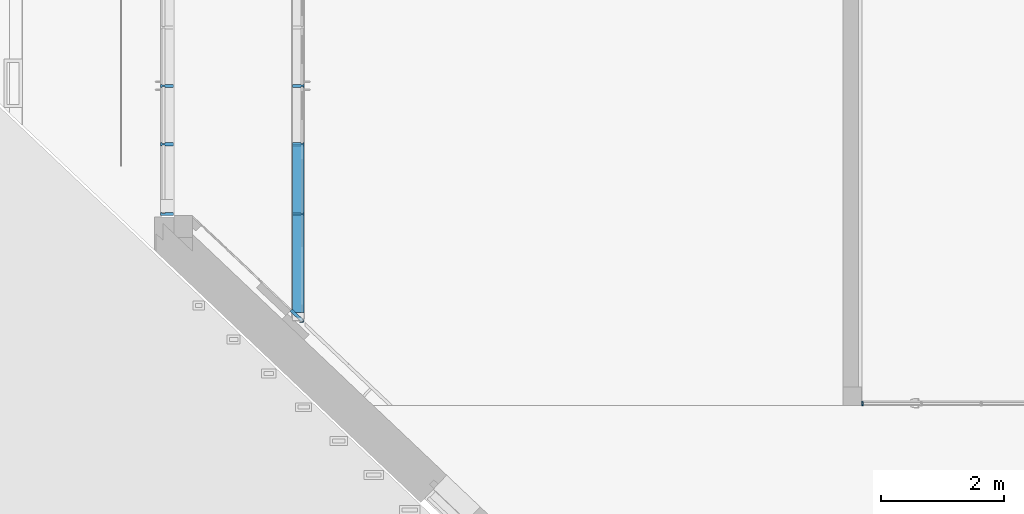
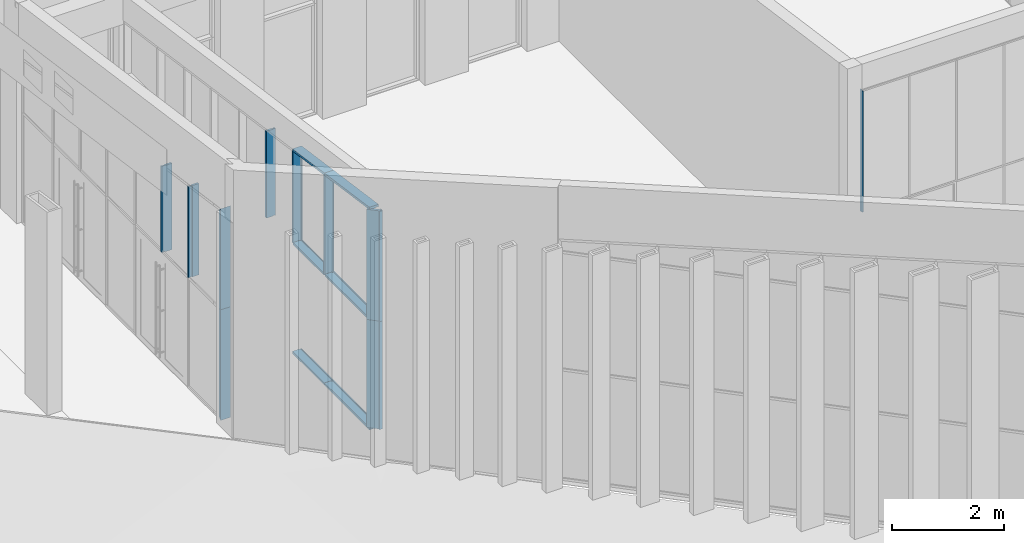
# One storey, part 65 of 246: 16 members, 3 elements without a shape of their own.
"""IFC2X3 building model written with IfcOpenShell, lengths in millimetres."""

import ifcopenshell
import ifcopenshell.guid

model = None  # the IFC model being written
_history = None  # IfcOwnerHistory: only IFC2X3 demands one
_inside = {}  # id of a spatial element -> (the spatial element, [elements in it])
_under = {}  # id of a project, library or spatial element -> (it, [spatial elements below it])
_declared = {}  # id of a project -> (the project, [libraries it declares])
_typed = {}  # id of a type object -> (the type object, [elements of that type])
_made_of = {}  # id of a material, layer set ... -> (it, [elements and type objects made of it])


def new_model(schema):
    """Start an empty IFC model of exactly this schema.

    Asked for "IFC4X3", IfcOpenShell would pick the latest addendum, in which some entities
    have other attributes; the version numbers below select the first issue.
    IFC2X3 requires an IfcOwnerHistory on every rooted entity: one is made here for all.
    """
    global model, _history
    if schema == "IFC4X3":
        model = ifcopenshell.file(schema_version=(4, 3, 0, 0))
    else:
        model = ifcopenshell.file(schema=schema)
    _inside.clear()
    _under.clear()
    _declared.clear()
    _typed.clear()
    _made_of.clear()
    _history = None
    if model.schema == "IFC2X3":
        org = make("IfcOrganization", Name="unknown")
        user = make(
            "IfcPersonAndOrganization",
            ThePerson=make("IfcPerson", FamilyName="unknown"),
            TheOrganization=org,
        )
        app = make(
            "IfcApplication",
            ApplicationDeveloper=org,
            Version="unknown",
            ApplicationFullName="unknown",
            ApplicationIdentifier="unknown",
        )
        _history = make(
            "IfcOwnerHistory",
            OwningUser=user,
            OwningApplication=app,
            ChangeAction="ADDED",
            CreationDate=0,
        )
    return model


def make(cls, **values):
    """One entity of the class cls with the attributes given. An attribute that is None is left unset."""
    return model.create_entity(
        cls, **{name: value for name, value in values.items() if value is not None}
    )


def entity(cls, *values):
    """Any entity or typed value of the class cls, its attributes in the order of the schema. None: left unset."""
    e = model.create_entity(cls)
    for i, value in enumerate(values):
        if value is not None:
            e[i] = value
    return e


def rooted(cls, **values):
    """An entity with a GlobalId (a new one), such as an element, a storey or a relation."""
    return make(cls, GlobalId=ifcopenshell.guid.new(), OwnerHistory=_history, **values)


def si_unit(unit_type, name, prefix=None):
    """IfcSIUnit, for example si_unit("LENGTHUNIT", "METRE", prefix="MILLI")."""
    return make("IfcSIUnit", UnitType=unit_type, Prefix=prefix, Name=name)


def converted_unit(unit_type, name, factor, base, dimensions=None, offset=None):
    """IfcConversionBasedUnit, such as the inch: factor (a typed value) times the base unit."""
    return make(
        "IfcConversionBasedUnit"
        if offset is None
        else "IfcConversionBasedUnitWithOffset",
        ConversionOffset=offset,
        Dimensions=None
        if dimensions is None
        else entity("IfcDimensionalExponents", *dimensions),
        UnitType=unit_type,
        Name=name,
        ConversionFactor=make(
            "IfcMeasureWithUnit", ValueComponent=factor, UnitComponent=base
        ),
    )


def derived_unit(unit_type, elements):
    """IfcDerivedUnit: a product of units, each with its exponent."""
    return make(
        "IfcDerivedUnit",
        Elements=[
            make("IfcDerivedUnitElement", Unit=unit, Exponent=power)
            for unit, power in elements
        ],
        UnitType=unit_type,
    )


def money_unit(currency):
    """IfcMonetaryUnit."""
    return make("IfcMonetaryUnit", Currency=currency)


def assignment(units):
    """IfcUnitAssignment: the units of a project."""
    return None if units is None else make("IfcUnitAssignment", Units=units)


def point(xyz):
    """IfcCartesianPoint."""
    return None if xyz is None else make("IfcCartesianPoint", Coordinates=xyz)


def direction(xyz):
    """IfcDirection."""
    return None if xyz is None else make("IfcDirection", DirectionRatios=xyz)


def frame(location, z_axis=None, x_axis=None):
    """IfcAxis2Placement3D, a coordinate frame: its origin and axes. An axis left out is left unset."""
    return make(
        "IfcAxis2Placement3D",
        Location=point(location),
        Axis=direction(z_axis),
        RefDirection=direction(x_axis),
    )


def origin_with_axes():
    """The frame at (0, 0, 0) with the z axis (0, 0, 1) and the x axis (1, 0, 0) written out."""
    return frame((0.0, 0.0, 0.0), z_axis=(0.0, 0.0, 1.0), x_axis=(1.0, 0.0, 0.0))


def place(relative_to, where):
    """IfcLocalPlacement: puts the frame where relative to a parent placement (None: the world)."""
    return make(
        "IfcLocalPlacement", PlacementRelTo=relative_to, RelativePlacement=where
    )


def context(
    kind, dimensions, precision=None, world=None, true_north=None, identifier=None
):
    """IfcGeometricRepresentationContext, for example the 3D "Model" context."""
    return make(
        "IfcGeometricRepresentationContext",
        ContextIdentifier=identifier,
        ContextType=kind,
        CoordinateSpaceDimension=dimensions,
        Precision=precision,
        WorldCoordinateSystem=world,
        TrueNorth=true_north,
    )


def subcontext(parent, identifier, kind, view, scale=None):
    """IfcGeometricRepresentationSubContext, for example "Body" below "Model"."""
    return make(
        "IfcGeometricRepresentationSubContext",
        ContextIdentifier=identifier,
        ContextType=kind,
        ParentContext=parent,
        TargetScale=scale,
        TargetView=view,
    )


def project(units=None, contexts=None):
    """IfcProject with its units and contexts."""
    return rooted(
        "IfcProject",
        Name="project",
        RepresentationContexts=contexts,
        UnitsInContext=assignment(units),
    )


def spatial(cls, under=None, at=None, **own):
    """A site, building, storey or space (cls), placed at a placement, below another one or the project."""
    s = rooted(cls, ObjectPlacement=at, **own)
    if under is not None:
        _under.setdefault(under.id(), (under, []))[1].append(s)
    return s


def faces_of(points, faces, orient=None, outer=None):
    """IfcFace entities. A face is a list of loops; a loop is a list of indices into points, from 0.

    orient and outer hold one flag for each loop. By default every Orientation is true, the
    first loop of a face is its IfcFaceOuterBound and the others are IfcFaceBound.
    """
    made = []
    for i, loops in enumerate(faces):
        bounds = []
        for j, loop in enumerate(loops):
            is_outer = j == 0 if outer is None else outer[i][j]
            bounds.append(
                make(
                    "IfcFaceOuterBound" if is_outer else "IfcFaceBound",
                    Bound=make("IfcPolyLoop", Polygon=[points[k] for k in loop]),
                    Orientation=True if orient is None else orient[i][j],
                )
            )
        made.append(make("IfcFace", Bounds=bounds))
    return made


def faceted_brep(points, faces, orient=None, outer=None, voids=None):
    """IfcFacetedBrep: a solid bounded by flat faces; with voids (closed shells), ...WithVoids."""
    shared = [point(p) for p in points]
    hull = make("IfcClosedShell", CfsFaces=faces_of(shared, faces, orient, outer))
    if voids is None:
        return make("IfcFacetedBrep", Outer=hull)
    return make(
        "IfcFacetedBrepWithVoids",
        Outer=hull,
        Voids=[
            make(cls, CfsFaces=faces_of(shared, fs, o, b)) for cls, fs, o, b in voids
        ],
    )


def shape(context_of_items, identifier, shape_type, items):
    """IfcShapeRepresentation: the items that make up one representation, for example the "Body"."""
    return make(
        "IfcShapeRepresentation",
        ContextOfItems=context_of_items,
        RepresentationIdentifier=identifier,
        RepresentationType=shape_type,
        Items=items,
    )


def material(Name=None, Category=None):
    """IfcMaterial."""
    return make("IfcMaterial", Name=Name, Category=Category)


def material_list(materials):
    """IfcMaterialList."""
    return make("IfcMaterialList", Materials=materials)


def made_of(thing, what):
    """Note that an element or type object is made of a material, layer set ...; save() writes the relation."""
    if what is not None:
        _made_of.setdefault(what.id(), (what, []))[1].append(thing)
    return thing


def type_object(cls, material=None, **own):
    """A type object (cls), such as IfcWallType, which elements share."""
    return made_of(rooted(cls, **own), material)


def element(
    cls,
    number,
    at=None,
    inside=None,
    cuts=None,
    type_object=None,
    material=None,
    context=None,
    identifier="Body",
    shape_type=None,
    held_by="IfcProductDefinitionShape",
    body=None,
    shapes=None,
    **own,
):
    """One element of the class cls, such as IfcWall. Its Tag is "e" and its number.

    at: its placement. inside: the storey or other place that contains it. cuts: it is an
    opening in that element (IfcRelVoidsElement). A single representation is given by context,
    identifier, shape_type and body (its items); several are given by shapes. held_by: the class
    of the entity that holds the representations. save() writes the other relations.
    """
    e = rooted(cls, Tag="e%d" % number, ObjectPlacement=at, **own)
    if body is not None:
        shapes = [shape(context, identifier, shape_type, body)]
    if shapes is not None:
        e.Representation = make(held_by, Representations=shapes)
    if inside is not None:
        _inside.setdefault(inside.id(), (inside, []))[1].append(e)
    if cuts is not None:
        rooted(
            "IfcRelVoidsElement", RelatingBuildingElement=cuts, RelatedOpeningElement=e
        )
    if type_object is not None:
        _typed.setdefault(type_object.id(), (type_object, []))[1].append(e)
    return made_of(e, material)


def aggregate(whole, parts):
    """IfcRelAggregates: a whole, such as a stair, and the parts it consists of."""
    return rooted("IfcRelAggregates", RelatingObject=whole, RelatedObjects=parts)


def save(model, path):
    """Write the relations noted so far, then the file.

    IfcRelAggregates (storeys below a building ...), IfcRelContainedInSpatialStructure (elements
    in a storey), IfcRelDefinesByType, IfcRelAssociatesMaterial and IfcRelDeclares: one each for
    every whole, place, type object, material and project.
    """
    for whole, parts in _under.values():
        aggregate(whole, parts)
    for where, things in _inside.values():
        rooted(
            "IfcRelContainedInSpatialStructure",
            RelatedElements=things,
            RelatingStructure=where,
        )
    for kind, things in _typed.values():
        rooted("IfcRelDefinesByType", RelatedObjects=things, RelatingType=kind)
    for what, things in _made_of.values():
        rooted("IfcRelAssociatesMaterial", RelatedObjects=things, RelatingMaterial=what)
    for by, libraries in _declared.values():
        rooted("IfcRelDeclares", RelatingContext=by, RelatedDefinitions=libraries)
    model.write(path)


model = new_model("IFC2X3")

# Units and contexts
model_context = context("Model", 3, precision=0.01, world=origin_with_axes(), true_north=direction((0.0, 1.0)))
body_context = subcontext(model_context, "Body", "Model", "MODEL_VIEW")
ifc_project = project(units=[si_unit("LENGTHUNIT", "METRE", prefix="MILLI"), si_unit("AREAUNIT", "SQUARE_METRE"), si_unit("VOLUMEUNIT", "CUBIC_METRE"), converted_unit("PLANEANGLEUNIT", "DEGREE", entity("IfcPlaneAngleMeasure", 0.0174532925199), si_unit("PLANEANGLEUNIT", "RADIAN"), dimensions=[0, 0, 0, 0, 0, 0, 0]), si_unit("SOLIDANGLEUNIT", "STERADIAN"), money_unit("EUR"), converted_unit("TIMEUNIT", "Year", entity("IfcTimeMeasure", 31556926.0), si_unit("TIMEUNIT", "SECOND"), dimensions=[0, 0, 1, 0, 0, 0, 0]), si_unit("MASSUNIT", "GRAM", prefix="KILO"), si_unit("THERMODYNAMICTEMPERATUREUNIT", "DEGREE_CELSIUS"), si_unit("LUMINOUSINTENSITYUNIT", "LUMEN"), si_unit("ENERGYUNIT", "JOULE", prefix="MEGA"), derived_unit("THERMALCONDUCTANCEUNIT", [(si_unit("POWERUNIT", "WATT"), 1), (si_unit("LENGTHUNIT", "METRE"), -1), (si_unit("THERMODYNAMICTEMPERATUREUNIT", "KELVIN"), -1)]), derived_unit("SPECIFICHEATCAPACITYUNIT", [(si_unit("ENERGYUNIT", "JOULE"), 1), (si_unit("MASSUNIT", "GRAM", prefix="KILO"), -1), (si_unit("THERMODYNAMICTEMPERATUREUNIT", "KELVIN"), -1)]), derived_unit("MASSDENSITYUNIT", [(si_unit("MASSUNIT", "GRAM", prefix="KILO"), 1), (si_unit("VOLUMEUNIT", "CUBIC_METRE"), -1)])], contexts=[model_context])

# Site, building, storey
site_placement = place(None, origin_with_axes())
site = spatial("IfcSite", under=ifc_project, at=site_placement, Name="L.Koidula tn 11b", CompositionType="ELEMENT")
building_placement = place(site_placement, origin_with_axes())
building = spatial("IfcBuilding", under=site, at=building_placement, Name="Rakvere Riigigümnaasium", CompositionType="ELEMENT")
storey_placement = place(building_placement, origin_with_axes())
storey = spatial("IfcBuildingStorey", under=building, at=storey_placement, Name="1.korrus 0,00", CompositionType="ELEMENT", Elevation=0.0)

# Curtain wall, members
curtain_wall_type = type_object("IfcCurtainWallType", Name="Curtain Wall Type", PredefinedType="NOTDEFINED")
curtain_wall_1_placement = place(storey_placement, frame((14260.0344055, 70945.4519938, -0.000165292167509), z_axis=(0.0, 0.0, 1.0), x_axis=(1.0, 0.0, 0.0)))
curtain_wall_1 = element("IfcCurtainWall", 1, at=curtain_wall_1_placement, inside=storey, type_object=curtain_wall_type, Name="KLF-01A")
ifc_material_1 = material(Name="Alumiiniumprofiil (RAL 7021)")
member_type_1 = type_object("IfcMemberType", Name="Boundary Frame 50 x 208", PredefinedType="MULLION")
member_1_placement = place(curtain_wall_1_placement, frame((0.0, -6520.10761405, 2400.00026018), z_axis=(0.0, 1.07617375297e-07, 1.0), x_axis=(0.0, 1.0, -1.07617375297e-07)))
member_1 = element("IfcMember", 2, at=member_1_placement, type_object=member_type_1, material=ifc_material_1, Name="KLF-51 Profiilid", ObjectType="MULLION", context=body_context, shape_type="Brep", body=[
    faceted_brep([(37.0, -27.0, 2152.02160314), (37.0, 27.0, 2152.02160314), (50.0, 27.0, 2137.04030025), (50.0, 48.0, 2137.04030025), (0.0, 48.0, 2194.66069598), (0.0, -160.0, 2194.66069598), (50.0, -160.0, 2137.04030025), (50.0, -27.0, 2137.04030025), (37.0, -27.0, -2.69043409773e-06), (37.0, 27.0, -2.69043409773e-06), (50.0, 27.0, -2.69043431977e-06), (50.0, 48.0, -2.69043431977e-06), (0.0, 48.0, -2.69043431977e-06), (0.0, -160.0, -2.69043431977e-06), (50.0, -160.0, -2.69043431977e-06), (50.0, -27.0, -2.69043431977e-06)], [[[0, 1, 2, 3, 4, 5, 6, 7]], [[1, 0, 8, 9]], [[10, 2, 1, 9]], [[2, 10, 11, 3]], [[12, 4, 3, 11]], [[13, 5, 4, 12]], [[14, 6, 5, 13]], [[15, 7, 6, 14]], [[0, 7, 15, 8]], [[8, 15, 14, 13, 12, 11, 10, 9]]]),
])
member_2_placement = place(curtain_wall_1_placement, frame((0.0, -6520.10761405, 0.0), z_axis=(0.0, 0.0, 1.0), x_axis=(0.0, 1.0, 0.0)))
member_2 = element("IfcMember", 3, at=member_2_placement, type_object=member_type_1, material=ifc_material_1, Name="KLF-50 Profiilid", ObjectType="MULLION", context=body_context, shape_type="Brep", body=[
    faceted_brep([(37.0, -27.0, 2400.00026287), (37.0, 27.0, 2400.00026287), (50.0, 27.0, 2400.00026287), (50.0, 48.0, 2400.00026287), (0.0, 48.0, 2400.00026287), (0.0, -160.0, 2400.00026287), (50.0, -160.0, 2400.00026287), (50.0, -27.0, 2400.00026287), (37.0, -27.0, 37.0), (37.0, 27.0, 37.0), (50.0, 27.0, 50.0), (50.0, 48.0, 50.0), (0.0, 48.0, 0.0), (0.0, -160.0, 0.0), (50.0, -160.0, 50.0), (50.0, -27.0, 50.0)], [[[0, 1, 2, 3, 4, 5, 6, 7]], [[1, 0, 8, 9]], [[10, 2, 1, 9]], [[2, 10, 11, 3]], [[4, 3, 11, 12]], [[5, 4, 12, 13]], [[6, 5, 13, 14]], [[15, 7, 6, 14]], [[0, 7, 15, 8]], [[8, 15, 14, 13, 12, 11, 10, 9]]]),
])
member_type_2 = type_object("IfcMemberType", Name="Mullion Frame 50 x 208", PredefinedType="MULLION")
member_3_placement = place(curtain_wall_1_placement, frame((0.0, -4410.0, 2400.00026018), z_axis=(0.0, 0.0, 1.0), x_axis=(0.0, 1.0, 0.0)))
member_3 = element("IfcMember", 4, at=member_3_placement, type_object=member_type_2, material=ifc_material_1, Name="KLF-01 Profiilid", ObjectType="MULLION", context=body_context, shape_type="Brep", body=[
    faceted_brep([(-12.0, -27.0, 1845.53311899), (-25.0, -27.0, 1847.38340915), (-25.0, -160.0, 1847.38340915), (25.0, -160.0, 1840.26690851), (25.0, -27.0, 1840.26690851), (12.0, -27.0, 1842.11719868), (12.0, 27.0, 1842.11719868), (25.0, 27.0, 1840.26690851), (25.0, 48.0, 1840.26690851), (-25.0, 48.0, 1847.38340915), (-25.0, 27.0, 1847.38340915), (-12.0, 27.0, 1845.53311899), (-12.0, -27.0, -25.0), (-25.0, -27.0, -25.0), (-25.0, -160.0, -25.0), (25.0, -160.0, -25.0), (25.0, -27.0, -25.0), (12.0, -27.0, -25.0), (12.0, 27.0, -25.0), (25.0, 27.0, -25.0), (25.0, 48.0, -25.0), (-25.0, 48.0, -25.0), (-25.0, 27.0, -25.0), (-12.0, 27.0, -25.0)], [[[0, 1, 2, 3, 4, 5, 6, 7, 8, 9, 10, 11]], [[1, 0, 12, 13]], [[1, 13, 14, 2]], [[3, 2, 14, 15]], [[4, 3, 15, 16]], [[4, 16, 17, 5]], [[5, 17, 18, 6]], [[7, 6, 18, 19]], [[19, 20, 8, 7]], [[9, 8, 20, 21]], [[22, 10, 9, 21]], [[11, 10, 22, 23]], [[0, 11, 23, 12]], [[23, 22, 21, 20, 19, 18, 17, 16, 15, 14, 13, 12]]]),
])
member_4_placement = place(curtain_wall_1_placement, frame((0.0, -5360.0, 2400.00026018), z_axis=(0.0, 0.0, 1.0), x_axis=(0.0, 1.0, 0.0)))
member_4 = element("IfcMember", 5, at=member_4_placement, type_object=member_type_2, material=ifc_material_1, Name="KLF-01 Profiilid", ObjectType="MULLION", context=body_context, shape_type="Brep", body=[
    faceted_brep([(-12.0, -27.0, 1980.74663136), (-25.0, -27.0, 1982.59692217), (-25.0, -160.0, 1982.59692217), (25.0, -160.0, 1975.48041906), (25.0, -27.0, 1975.48041906), (12.0, -27.0, 1977.33070987), (12.0, 27.0, 1977.33070987), (25.0, 27.0, 1975.48041906), (25.0, 48.0, 1975.48041906), (-25.0, 48.0, 1982.59692217), (-25.0, 27.0, 1982.59692217), (-12.0, 27.0, 1980.74663136), (-12.0, -27.0, 0.0), (-25.0, -27.0, 0.0), (-25.0, -160.0, 0.0), (25.0, -160.0, 0.0), (25.0, -27.0, 0.0), (12.0, -27.0, 0.0), (12.0, 27.0, 0.0), (25.0, 27.0, 0.0), (25.0, 48.0, 0.0), (-25.0, 48.0, 0.0), (-25.0, 27.0, 0.0), (-12.0, 27.0, 0.0)], [[[0, 1, 2, 3, 4, 5, 6, 7, 8, 9, 10, 11]], [[1, 0, 12, 13]], [[1, 13, 14, 2]], [[3, 2, 14, 15]], [[4, 3, 15, 16]], [[4, 16, 17, 5]], [[5, 17, 18, 6]], [[7, 6, 18, 19]], [[19, 20, 8, 7]], [[9, 8, 20, 21]], [[22, 10, 9, 21]], [[11, 10, 22, 23]], [[0, 11, 23, 12]], [[23, 22, 21, 20, 19, 18, 17, 16, 15, 14, 13, 12]]]),
])
aggregate(curtain_wall_1, [member_3, member_4, member_1, member_2])

# Curtain wall, member
curtain_wall_2_placement = place(storey_placement, frame((26572.4999007, 61372.4546496, 0.0), z_axis=(0.0, 0.0, 1.0), x_axis=(1.0, 0.0, 0.0)))
curtain_wall_2 = element("IfcCurtainWall", 6, at=curtain_wall_2_placement, inside=storey, type_object=curtain_wall_type, Name="SKLF-01")
ifc_material_2 = material(Name="Klaasvill")
ifc_material_3 = material(Name="Teras RAL7012")
ifc_material_list = material_list([ifc_material_2, ifc_material_3])
member_type_3 = type_object("IfcMemberType", Name="Boundary Frame 30 x 42", PredefinedType="MULLION")
member_5_placement = place(curtain_wall_2_placement, frame((-972.5, 0.0, 2400.0), z_axis=(0.0, 0.0, 1.0), x_axis=(-1.0, 0.0, 0.0)))
member_5 = element("IfcMember", 7, at=member_5_placement, type_object=member_type_3, material=ifc_material_list, Name="SKLF-74-raam", ObjectType="MULLION", context=body_context, shape_type="Brep", body=[
    faceted_brep([(-7.49999990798, 15.000000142, 0.0), (-7.49999990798, 15.000000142, 2642.50000009), (-13.8499999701, 15.000000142, 2636.15000003), (-13.8499999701, 15.000000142, 0.0), (-7.49999990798, 29.0161444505, 0.0), (-7.49999990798, 29.0161444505, 2642.50000009), (-13.8499999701, 29.0161444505, 2636.15000003), (-13.8499999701, 29.0161444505, 0.0)], [[[0, 1, 2, 3]], [[4, 5, 1, 0]], [[1, 5, 6, 2]], [[3, 2, 6, 7]], [[0, 3, 7, 4]], [[7, 6, 5, 4]]]),
    faceted_brep([(-24.987414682, 29.0161444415, 0.0), (-24.987414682, 29.0161444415, 2625.01258532), (-25.004489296, 27.0307503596, 2624.9955107), (-25.004489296, 27.0307503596, 0.0), (-28.5126239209, 29.0161444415, 0.0), (-28.5126239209, 29.0161444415, 2621.48737608), (-28.7655837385, 28.0385325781, 2621.23441626), (-28.4955493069, 27.0307503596, 2621.50445069), (-27.75780152, 26.2930025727, 2622.24219848), (-26.7500193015, 26.0229681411, 2623.2499807), (-25.742237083, 26.2930025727, 2624.25776292), (-25.742237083, 26.2930025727, 0.0), (-26.7500193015, 26.0229681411, 0.0), (-27.75780152, 26.2930025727, 0.0), (-28.4955493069, 27.0307503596, 0.0), (-28.7655837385, 28.0385325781, 0.0)], [[[0, 1, 2, 3]], [[4, 5, 1, 0]], [[1, 5, 6, 7, 8, 9, 10, 2]], [[3, 2, 10, 11]], [[0, 3, 11, 12, 13, 14, 15, 4]], [[15, 6, 5, 4]], [[14, 7, 6, 15]], [[13, 8, 7, 14]], [[12, 9, 8, 13]], [[11, 10, 9, 12]]]),
    faceted_brep([(-7.49999990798, -24.9999997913, 0.0), (-7.49999990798, -24.9999997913, 2642.50000009), (-7.49999990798, -39.0161445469, 2642.50000009), (-7.49999990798, -39.0161445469, 0.0), (-13.8499999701, -24.9999997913, 0.0), (-13.8499999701, -24.9999997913, 2636.15000003), (-13.8499999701, -39.0161445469, 2636.15000003), (-13.8499999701, -39.0161445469, 0.0)], [[[0, 1, 2, 3]], [[4, 5, 1, 0]], [[1, 5, 6, 2]], [[3, 2, 6, 7]], [[0, 3, 7, 4]], [[7, 6, 5, 4]]]),
    faceted_brep([(-25.004489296, -37.0307503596, 0.0), (-25.004489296, -37.0307503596, 2624.9955107), (-24.987414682, -39.0161444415, 2625.01258532), (-24.987414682, -39.0161444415, 0.0), (-25.742237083, -36.2930025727, 0.0), (-25.742237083, -36.2930025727, 2624.25776292), (-26.7500193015, -36.0229681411, 2623.2499807), (-27.75780152, -36.2930025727, 2622.24219848), (-28.4955493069, -37.0307503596, 2621.50445069), (-28.7655837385, -38.0385325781, 2621.23441626), (-28.5126239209, -39.0161444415, 2621.48737608), (-28.5126239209, -39.0161444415, 0.0), (-28.7655837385, -38.0385325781, 0.0), (-28.4955493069, -37.0307503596, 0.0), (-27.75780152, -36.2930025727, 0.0), (-26.7500193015, -36.0229681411, 0.0)], [[[0, 1, 2, 3]], [[4, 5, 1, 0]], [[1, 5, 6, 7, 8, 9, 10, 2]], [[3, 2, 10, 11]], [[0, 3, 11, 12, 13, 14, 15, 4]], [[15, 6, 5, 4]], [[14, 7, 6, 15]], [[13, 8, 7, 14]], [[12, 9, 8, 13]], [[11, 10, 9, 12]]]),
    faceted_brep([(0.0, -22.0000000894, 0.0), (0.0, -22.0000000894, 2650.0), (-29.5999996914, -22.0000000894, 2620.40000031), (-29.5999996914, -22.0000000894, 0.0), (0.0, 12.0000000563, 0.0), (0.0, 12.0000000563, 2650.0), (-29.5999996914, 12.0000000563, 2620.40000031), (-1.9999999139, 10.0000001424, 2648.00000009), (-1.9999999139, -20.0000001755, 2648.00000009), (-18.7999996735, -20.0000001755, 2631.20000033), (-18.7999996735, 10.0000001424, 2631.20000033), (-29.5999996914, 12.0000000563, 0.0), (-1.9999999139, 10.0000001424, 0.0), (-18.7999996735, 10.0000001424, 0.0), (-18.7999996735, -20.0000001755, 0.0), (-1.9999999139, -20.0000001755, 0.0)], [[[0, 1, 2, 3]], [[4, 5, 1, 0]], [[1, 5, 6, 2], [7, 8, 9, 10]], [[3, 2, 6, 11]], [[0, 3, 11, 4], [12, 13, 14, 15]], [[11, 6, 5, 4]], [[15, 8, 7, 12]], [[14, 9, 8, 15]], [[13, 10, 9, 14]], [[12, 7, 10, 13]]]),
    faceted_brep([(0.0, 12.0, 0.0), (0.0, 12.0, 2650.0), (-29.5999996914, 12.0000000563, 2620.40000031), (-29.5999996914, 12.0000000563, 0.0), (0.0, 32.0, 0.0), (0.0, 32.0, 2650.0), (-30.0000193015, 32.0, 2619.9999807), (-30.0000193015, 29.0161444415, 2619.9999807), (-28.5126239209, 29.0161444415, 2621.48737608), (-24.987414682, 29.0161444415, 2625.01258532), (-13.8499999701, 29.0161444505, 2636.15000003), (-7.49999999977, 29.0161444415, 2642.5), (-7.49999999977, 15.0, 2642.5), (-13.8499999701, 15.000000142, 2636.15000003), (-30.0000193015, 15.0, 2619.9999807), (-30.0000193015, 12.0, 2619.9999807), (-30.0000193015, 12.0, 0.0), (-30.0000193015, 15.0, 0.0), (-13.8499999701, 15.000000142, 0.0), (-7.49999999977, 15.0, 0.0), (-7.49999999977, 29.0161444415, 0.0), (-13.8499999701, 29.0161444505, 0.0), (-24.987414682, 29.0161444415, 0.0), (-28.5126239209, 29.0161444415, 0.0), (-30.0000193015, 29.0161444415, 0.0), (-30.0000193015, 32.0, 0.0)], [[[0, 1, 2, 3]], [[4, 5, 1, 0]], [[1, 5, 6, 7, 8, 9, 10, 11, 12, 13, 14, 15, 2]], [[3, 2, 15, 16]], [[0, 3, 16, 17, 18, 19, 20, 21, 22, 23, 24, 25, 4]], [[25, 6, 5, 4]], [[24, 7, 6, 25]], [[23, 8, 7, 24]], [[22, 9, 8, 23]], [[21, 10, 9, 22]], [[20, 11, 10, 21]], [[19, 12, 11, 20]], [[18, 13, 12, 19]], [[17, 14, 13, 18]], [[16, 15, 14, 17]]]),
    faceted_brep([(0.0, -22.0, 0.0), (0.0, -22.0, 2650.0), (0.0, -42.0, 2650.0), (0.0, -42.0, 0.0), (-29.5999996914, -22.0000000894, 0.0), (-29.5999996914, -22.0000000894, 2620.40000031), (-30.0000193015, -22.0, 2619.9999807), (-30.0000193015, -25.0, 2619.9999807), (-13.8499999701, -24.9999997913, 2636.15000003), (-7.49999999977, -25.0, 2642.5), (-7.49999999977, -39.0161444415, 2642.5), (-13.8499999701, -39.0161445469, 2636.15000003), (-24.987414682, -39.0161444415, 2625.01258532), (-28.5126239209, -39.0161444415, 2621.48737608), (-30.0000193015, -39.0161444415, 2619.9999807), (-30.0000193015, -42.0, 2619.9999807), (-30.0000193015, -42.0, 0.0), (-30.0000193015, -39.0161444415, 0.0), (-28.5126239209, -39.0161444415, 0.0), (-24.987414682, -39.0161444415, 0.0), (-13.8499999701, -39.0161445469, 0.0), (-7.49999999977, -39.0161444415, 0.0), (-7.49999999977, -25.0, 0.0), (-13.8499999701, -24.9999997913, 0.0), (-30.0000193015, -25.0, 0.0), (-30.0000193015, -22.0, 0.0)], [[[0, 1, 2, 3]], [[4, 5, 1, 0]], [[1, 5, 6, 7, 8, 9, 10, 11, 12, 13, 14, 15, 2]], [[3, 2, 15, 16]], [[0, 3, 16, 17, 18, 19, 20, 21, 22, 23, 24, 25, 4]], [[25, 6, 5, 4]], [[24, 7, 6, 25]], [[23, 8, 7, 24]], [[22, 9, 8, 23]], [[21, 10, 9, 22]], [[20, 11, 10, 21]], [[19, 12, 11, 20]], [[18, 13, 12, 19]], [[17, 14, 13, 18]], [[16, 15, 14, 17]]]),
])
aggregate(curtain_wall_2, [member_5])

# Curtain wall, members
curtain_wall_3_placement = place(storey_placement, frame((16510.0495753, 70995.4517615, -0.000456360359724), z_axis=(0.0, 0.0, 1.0), x_axis=(1.0, 0.0, 0.0)))
curtain_wall_3 = element("IfcCurtainWall", 8, at=curtain_wall_3_placement, inside=storey, type_object=curtain_wall_type, Name="KLF-01B")
member_type_4 = type_object("IfcMemberType", Name="Boundary Frame 50 x 188", PredefinedType="MULLION")
member_6_placement = place(curtain_wall_3_placement, frame((0.0, -5409.99976778, 0.0), z_axis=(0.0, -1.0, 0.0), x_axis=(0.0, 0.0, 1.0)))
member_6 = element("IfcMember", 9, at=member_6_placement, type_object=member_type_4, material=ifc_material_1, Name="KLF-47 Profiilid", ObjectType="MULLION", context=body_context, shape_type="Brep", body=[
    faceted_brep([(37.0, 15.0, 1135.0), (50.0, 15.0, 1135.0), (50.0, 153.0, 1135.0), (0.0, 153.0, 1135.0), (0.0, -35.0, 1135.0), (50.0, -35.0, 1135.0), (50.0, -15.0, 1135.0), (37.0, -15.0, 1135.0), (37.0, 15.0, 0.0), (50.0, 15.0, 0.0), (50.0, 153.0, 0.0), (0.0, 153.0, 0.0), (0.0, -35.0, 0.0), (50.0, -35.0, 0.0), (50.0, -15.0, 0.0), (37.0, -15.0, 0.0)], [[[0, 1, 2, 3, 4, 5, 6, 7]], [[0, 8, 9, 1]], [[9, 10, 2, 1]], [[10, 11, 3, 2]], [[11, 12, 4, 3]], [[12, 13, 5, 4]], [[6, 5, 13, 14]], [[14, 15, 7, 6]], [[7, 15, 8, 0]], [[8, 15, 14, 13, 12, 11, 10, 9]]]),
])
member_7_placement = place(curtain_wall_3_placement, frame((0.0, -6544.99976778, 0.0), z_axis=(0.0, -1.0, 0.0), x_axis=(0.0, 0.0, 1.0)))
member_7 = element("IfcMember", 10, at=member_7_placement, type_object=member_type_4, material=ifc_material_1, Name="KLF-48 Profiilid", ObjectType="MULLION", context=body_context, shape_type="Brep", body=[
    faceted_brep([(37.0, 15.0, 1600.0), (50.0, 15.0, 1600.0), (50.0, 153.0, 1600.0), (0.0, 153.0, 1600.0), (0.0, -35.0, 1600.0), (50.0, -35.0, 1600.0), (50.0, -15.0, 1600.0), (37.0, -15.0, 1600.0), (37.0, 15.0, 0.0), (50.0, 15.0, 0.0), (50.0, 153.0, 0.0), (0.0, 153.0, 0.0), (0.0, -35.0, 0.0), (50.0, -35.0, 0.0), (50.0, -15.0, 0.0), (37.0, -15.0, 0.0)], [[[0, 1, 2, 3, 4, 5, 6, 7]], [[0, 8, 9, 1]], [[9, 10, 2, 1]], [[10, 11, 3, 2]], [[11, 12, 4, 3]], [[12, 13, 5, 4]], [[6, 5, 13, 14]], [[14, 15, 7, 6]], [[7, 15, 8, 0]], [[8, 15, 14, 13, 12, 11, 10, 9]]]),
])
member_8_placement = place(curtain_wall_3_placement, frame((0.0, -6544.99976778, 4604.7725248), z_axis=(0.0, 0.990023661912, -0.140901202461), x_axis=(0.0, -0.140901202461, -0.990023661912)))
member_8 = element("IfcMember", 11, at=member_8_placement, type_object=member_type_4, material=ifc_material_1, Name="KLF-54 Profiilid", ObjectType="MULLION", context=body_context, shape_type="Brep", body=[
    faceted_brep([(37.0, 15.0, 1146.4372486), (50.0, 15.0, 1146.4372486), (50.0, 153.0, 1146.4372486), (0.0, 153.0, 1146.4372486), (0.0, -35.0, 1146.4372486), (50.0, -35.0, 1146.4372486), (50.0, -15.0, 1146.4372486), (37.0, -15.0, 1146.4372486), (37.0, 15.0, -5.890541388e-07), (50.0, 15.0, -5.890541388e-07), (50.0, 153.0, -5.890541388e-07), (0.0, 153.0, -5.89061244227e-07), (0.0, -35.0, -5.89061244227e-07), (50.0, -35.0, -5.890541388e-07), (50.0, -15.0, -5.890541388e-07), (37.0, -15.0, -5.890541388e-07)], [[[0, 1, 2, 3, 4, 5, 6, 7]], [[0, 8, 9, 1]], [[9, 10, 2, 1]], [[10, 11, 3, 2]], [[11, 12, 4, 3]], [[12, 13, 5, 4]], [[6, 5, 13, 14]], [[14, 15, 7, 6]], [[7, 15, 8, 0]], [[8, 15, 14, 13, 12, 11, 10, 9]]]),
])
member_9_placement = place(curtain_wall_3_placement, frame((0.0, -8144.99976778, 4832.48615886), z_axis=(0.0, 0.990023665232, -0.140901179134), x_axis=(0.0, -0.140901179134, -0.990023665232)))
member_9 = element("IfcMember", 12, at=member_9_placement, type_object=member_type_4, material=ifc_material_1, Name="KLF-53 Profiilid", ObjectType="MULLION", context=body_context, shape_type="Brep", body=[
    faceted_brep([(37.0, 15.0, 1616.1229845), (50.0, 15.0, 1616.1229845), (50.0, 153.0, 1616.1229845), (0.0, 153.0, 1616.1229845), (0.0, -35.0, 1616.1229845), (50.0, -35.0, 1616.1229845), (50.0, -15.0, 1616.1229845), (37.0, -15.0, 1616.1229845), (37.0, 15.0, -9.72269731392e-06), (50.0, 15.0, -9.72269020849e-06), (50.0, 153.0, -9.72269020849e-06), (0.0, 153.0, -9.72269731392e-06), (0.0, -35.0, -9.72269731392e-06), (50.0, -35.0, -9.72269020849e-06), (50.0, -15.0, -9.72269020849e-06), (37.0, -15.0, -9.72269731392e-06)], [[[0, 1, 2, 3, 4, 5, 6, 7]], [[0, 8, 9, 1]], [[9, 10, 2, 1]], [[10, 11, 3, 2]], [[11, 12, 4, 3]], [[12, 13, 5, 4]], [[6, 5, 13, 14]], [[14, 15, 7, 6]], [[7, 15, 8, 0]], [[8, 15, 14, 13, 12, 11, 10, 9]]]),
])
member_type_5 = type_object("IfcMemberType", Name="Mullion Frame 50 x 188", PredefinedType="MULLION")
member_10_placement = place(curtain_wall_3_placement, frame((0.0, -4459.99976778, 2400.00029107), z_axis=(0.0, 0.0, 1.0), x_axis=(0.0, 1.0, 0.0)))
member_10 = element("IfcMember", 13, at=member_10_placement, type_object=member_type_5, material=ifc_material_1, Name="KLF-68 Profiilid", ObjectType="MULLION", context=body_context, shape_type="Brep", body=[
    faceted_brep([(-12.0, 15.0, 1859.23674624), (-12.0, -15.0, 1859.23674624), (-25.0, -15.0, 1861.08692144), (-25.0, -35.0, 1861.08692144), (25.0, -35.0, 1853.97086298), (25.0, -15.0, 1853.97086298), (12.0, -15.0, 1855.82103818), (12.0, 15.0, 1855.82103818), (25.0, 15.0, 1853.97086298), (25.0, 153.0, 1853.97086298), (-25.0, 153.0, 1861.08692144), (-25.0, 15.0, 1861.08692144), (-12.0, 15.0, -25.0), (-12.0, -15.0, -25.0), (-25.0, -15.0, -25.0), (-25.0, -35.0, -25.0), (25.0, -35.0, -25.0), (25.0, -15.0, -25.0), (12.0, -15.0, -25.0), (12.0, 15.0, -25.0), (25.0, 15.0, -25.0), (25.0, 153.0, -25.0), (-25.0, 153.0, -25.0), (-25.0, 15.0, -25.0)], [[[0, 1, 2, 3, 4, 5, 6, 7, 8, 9, 10, 11]], [[0, 12, 13, 1]], [[1, 13, 14, 2]], [[14, 15, 3, 2]], [[3, 15, 16, 4]], [[17, 5, 4, 16]], [[5, 17, 18, 6]], [[7, 6, 18, 19]], [[8, 7, 19, 20]], [[8, 20, 21, 9]], [[9, 21, 22, 10]], [[11, 10, 22, 23]], [[11, 23, 12, 0]], [[13, 12, 23, 22, 21, 20, 19, 18, 17, 16, 15, 14]]]),
])
member_11_placement = place(curtain_wall_3_placement, frame((0.0, -5409.99976778, 2400.00029107), z_axis=(0.0, 0.0, 1.0), x_axis=(0.0, 1.0, 0.0)))
member_11 = element("IfcMember", 14, at=member_11_placement, type_object=member_type_5, material=ifc_material_1, Name="KLF-69 Profiilid", ObjectType="MULLION", context=body_context, shape_type="Brep", body=[
    faceted_brep([(-12.0, 15.0, 1994.44185641), (-12.0, -15.0, 1994.44185641), (-25.0, -15.0, 1996.29203), (-25.0, -35.0, 1996.29203), (25.0, -35.0, 1989.17597773), (25.0, -15.0, 1989.17597773), (12.0, -15.0, 1991.02615132), (12.0, 15.0, 1991.02615132), (25.0, 15.0, 1989.17597773), (25.0, 153.0, 1989.17597773), (-25.0, 153.0, 1996.29203), (-25.0, 15.0, 1996.29203), (-12.0, 15.0, 0.0), (-12.0, -15.0, 0.0), (-25.0, -15.0, 0.0), (-25.0, -35.0, 0.0), (25.0, -35.0, 0.0), (25.0, -15.0, 0.0), (12.0, -15.0, 0.0), (12.0, 15.0, 0.0), (25.0, 15.0, 0.0), (25.0, 153.0, 0.0), (-25.0, 153.0, 0.0), (-25.0, 15.0, 0.0)], [[[0, 1, 2, 3, 4, 5, 6, 7, 8, 9, 10, 11]], [[0, 12, 13, 1]], [[1, 13, 14, 2]], [[14, 15, 3, 2]], [[3, 15, 16, 4]], [[17, 5, 4, 16]], [[5, 17, 18, 6]], [[7, 6, 18, 19]], [[8, 7, 19, 20]], [[8, 20, 21, 9]], [[9, 21, 22, 10]], [[11, 10, 22, 23]], [[11, 23, 12, 0]], [[13, 12, 23, 22, 21, 20, 19, 18, 17, 16, 15, 14]]]),
])
member_12_placement = place(curtain_wall_3_placement, frame((0.0, -6544.99976778, 2400.00029107), z_axis=(0.0, 0.0, 1.0), x_axis=(0.0, 1.0, 0.0)))
member_12 = element("IfcMember", 15, at=member_12_placement, type_object=member_type_5, material=ifc_material_1, Name="KLF-70 Profiilid", ObjectType="MULLION", context=body_context, shape_type="Brep", body=[
    faceted_brep([(-12.0, 15.0, 2155.97624274), (-12.0, -15.0, 2155.97624274), (-25.0, -15.0, 2157.82641601), (-25.0, -35.0, 2157.82641601), (25.0, -35.0, 2150.71036495), (25.0, -15.0, 2150.71036495), (12.0, -15.0, 2152.56053823), (12.0, 15.0, 2152.56053823), (25.0, 15.0, 2150.71036495), (25.0, 153.0, 2150.71036495), (-25.0, 153.0, 2157.82641601), (-25.0, 15.0, 2157.82641601), (-12.0, 15.0, 0.0), (-12.0, -15.0, 0.0), (-25.0, -15.0, 0.0), (-25.0, -35.0, 0.0), (25.0, -35.0, 0.0), (25.0, -15.0, 0.0), (12.0, -15.0, 0.0), (12.0, 15.0, 0.0), (25.0, 15.0, 0.0), (25.0, 153.0, 0.0), (-25.0, 153.0, 0.0), (-25.0, 15.0, 0.0)], [[[0, 1, 2, 3, 4, 5, 6, 7, 8, 9, 10, 11]], [[0, 12, 13, 1]], [[1, 13, 14, 2]], [[14, 15, 3, 2]], [[3, 15, 16, 4]], [[17, 5, 4, 16]], [[5, 17, 18, 6]], [[7, 6, 18, 19]], [[8, 7, 19, 20]], [[8, 20, 21, 9]], [[9, 21, 22, 10]], [[11, 10, 22, 23]], [[11, 23, 12, 0]], [[13, 12, 23, 22, 21, 20, 19, 18, 17, 16, 15, 14]]]),
])
member_type_6 = type_object("IfcMemberType", Name="Transom Frame 50 x 188", PredefinedType="MULLION")
member_13_placement = place(curtain_wall_3_placement, frame((0.0, -5409.99976778, 2400.00029107), z_axis=(0.0, -1.0, 0.0), x_axis=(0.0, 0.0, 1.0)))
member_13 = element("IfcMember", 16, at=member_13_placement, type_object=member_type_6, material=ifc_material_1, Name="KLF-27 Profiilid", ObjectType="MULLION", context=body_context, shape_type="Brep", body=[
    faceted_brep([(-12.0, 15.0, 1110.0), (-12.0, -15.0, 1110.0), (-25.0, -15.0, 1110.0), (-25.0, -35.0, 1110.0), (25.0, -35.0, 1110.0), (25.0, -15.0, 1110.0), (12.0, -15.0, 1110.0), (12.0, 15.0, 1110.0), (25.0, 15.0, 1110.0), (25.0, 153.0, 1110.0), (-25.0, 153.0, 1110.0), (-25.0, 15.0, 1110.0), (-12.0, 15.0, 25.0), (-12.0, -15.0, 25.0), (-25.0, -15.0, 25.0), (-25.0, -35.0, 25.0), (25.0, -35.0, 25.0), (25.0, -15.0, 25.0), (12.0, -15.0, 25.0), (12.0, 15.0, 25.0), (25.0, 15.0, 25.0), (25.0, 153.0, 25.0), (-25.0, 153.0, 25.0), (-25.0, 15.0, 25.0)], [[[0, 1, 2, 3, 4, 5, 6, 7, 8, 9, 10, 11]], [[0, 12, 13, 1]], [[1, 13, 14, 2]], [[14, 15, 3, 2]], [[4, 3, 15, 16]], [[17, 5, 4, 16]], [[5, 17, 18, 6]], [[7, 6, 18, 19]], [[8, 7, 19, 20]], [[8, 20, 21, 9]], [[10, 9, 21, 22]], [[11, 10, 22, 23]], [[11, 23, 12, 0]], [[13, 12, 23, 22, 21, 20, 19, 18, 17, 16, 15, 14]]]),
])
member_14_placement = place(curtain_wall_3_placement, frame((0.0, -6544.99976778, 2400.00029107), z_axis=(0.0, -1.0, 0.0), x_axis=(0.0, 0.0, 1.0)))
member_14 = element("IfcMember", 17, at=member_14_placement, type_object=member_type_6, material=ifc_material_1, Name="KLF-43 Profiilid", ObjectType="MULLION", context=body_context, shape_type="Brep", body=[
    faceted_brep([(-12.0, 15.0, 1600.0), (-12.0, -15.0, 1600.0), (-25.0, -15.0, 1600.0), (-25.0, -35.0, 1600.0), (25.0, -35.0, 1600.0), (25.0, -15.0, 1600.0), (12.0, -15.0, 1600.0), (12.0, 15.0, 1600.0), (25.0, 15.0, 1600.0), (25.0, 153.0, 1600.0), (-25.0, 153.0, 1600.0), (-25.0, 15.0, 1600.0), (-12.0, 15.0, 25.0), (-12.0, -15.0, 25.0), (-25.0, -15.0, 25.0), (-25.0, -35.0, 25.0), (25.0, -35.0, 25.0), (25.0, -15.0, 25.0), (12.0, -15.0, 25.0), (12.0, 15.0, 25.0), (25.0, 15.0, 25.0), (25.0, 153.0, 25.0), (-25.0, 153.0, 25.0), (-25.0, 15.0, 25.0)], [[[0, 1, 2, 3, 4, 5, 6, 7, 8, 9, 10, 11]], [[0, 12, 13, 1]], [[1, 13, 14, 2]], [[14, 15, 3, 2]], [[4, 3, 15, 16]], [[17, 5, 4, 16]], [[5, 17, 18, 6]], [[7, 6, 18, 19]], [[8, 7, 19, 20]], [[8, 20, 21, 9]], [[10, 9, 21, 22]], [[11, 10, 22, 23]], [[11, 23, 12, 0]], [[13, 12, 23, 22, 21, 20, 19, 18, 17, 16, 15, 14]]]),
])
member_type_7 = type_object("IfcMemberType", Name="50 x 245", PredefinedType="MULLION")
member_15_placement = place(curtain_wall_3_placement, frame((0.0, -8272.82116702, 2400.00029107), z_axis=(0.0, 0.0, 1.0), x_axis=(0.682940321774, 0.730474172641, 0.0)))
member_15 = element("IfcMember", 18, at=member_15_placement, type_object=member_type_7, material=ifc_material_1, Name="KLF-08-Profiilid", ObjectType="MULLION", context=body_context, shape_type="Brep", body=[
    faceted_brep([(-25.0, 245.0, 0.0), (-25.0, 0.0, 0.0), (-25.0, 0.0, 2393.13963183), (-25.0, 245.0, 2393.13963183), (25.0, 245.0, 0.0), (25.0, 0.0, 0.0), (25.0, 0.0, 2393.13963183), (25.0, 245.0, 2393.13963183)], [[[0, 1, 2, 3]], [[0, 4, 5, 1]], [[1, 5, 6, 2]], [[3, 2, 6, 7]], [[4, 0, 3, 7]], [[5, 4, 7, 6]]]),
    faceted_brep([(49.7071765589, 5.40338769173, 0.0), (42.8777733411, 12.7081294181, 0.0), (42.8777733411, 12.7081294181, 2393.13963183), (49.7071765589, 5.40338769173, 2393.13963183), (0.0, -41.0692138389, 0.0), (-49.7071765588, 5.40338769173, 0.0), (-42.8777733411, 12.7081294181, 0.0), (0.0, -27.3794758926, 0.0), (0.0, -27.3794758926, 2393.13963183), (-42.8777733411, 12.7081294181, 2393.13963183), (-49.7071765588, 5.40338769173, 2393.13963183), (0.0, -41.0692138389, 2393.13963183)], [[[0, 1, 2, 3]], [[0, 4, 5, 6, 7, 1]], [[1, 7, 8, 2]], [[3, 2, 8, 9, 10, 11]], [[4, 0, 3, 11]], [[5, 4, 11, 10]], [[6, 5, 10, 9]], [[7, 6, 9, 8]]]),
])
member_16_placement = place(curtain_wall_3_placement, frame((0.0, -8272.82116702, 57.5379774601), z_axis=(0.0, 0.0, 1.0), x_axis=(0.682940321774, 0.730474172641, 0.0)))
member_16 = element("IfcMember", 19, at=member_16_placement, type_object=member_type_7, material=ifc_material_1, Name="KLF-09-Profiilid", ObjectType="MULLION", context=body_context, shape_type="Brep", body=[
    faceted_brep([(-25.0, 245.0, 0.0), (-25.0, 0.0, 0.0), (-25.0, 0.0, 2342.46231361), (-25.0, 245.0, 2342.46231361), (25.0, 245.0, 0.0), (25.0, 0.0, 0.0), (25.0, 0.0, 2342.46231361), (25.0, 245.0, 2342.46231361)], [[[0, 1, 2, 3]], [[0, 4, 5, 1]], [[1, 5, 6, 2]], [[3, 2, 6, 7]], [[4, 0, 3, 7]], [[5, 4, 7, 6]]]),
    faceted_brep([(49.7071765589, 5.40338769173, 0.0), (42.8777733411, 12.7081294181, 0.0), (42.8777733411, 12.7081294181, 2342.46231361), (49.7071765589, 5.40338769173, 2342.46231361), (0.0, -41.0692138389, 0.0), (-49.7071765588, 5.40338769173, 0.0), (-42.8777733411, 12.7081294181, 0.0), (0.0, -27.3794758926, 0.0), (0.0, -27.3794758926, 2342.46231361), (-42.8777733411, 12.7081294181, 2342.46231361), (-49.7071765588, 5.40338769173, 2342.46231361), (0.0, -41.0692138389, 2342.46231361)], [[[0, 1, 2, 3]], [[0, 4, 5, 6, 7, 1]], [[1, 7, 8, 2]], [[3, 2, 8, 9, 10, 11]], [[4, 0, 3, 11]], [[5, 4, 11, 10]], [[6, 5, 10, 9]], [[7, 6, 9, 8]]]),
])
aggregate(curtain_wall_3, [member_13, member_6, member_14, member_7, member_15, member_10, member_11, member_8, member_12, member_9, member_16])

save(model, "model.ifc")
